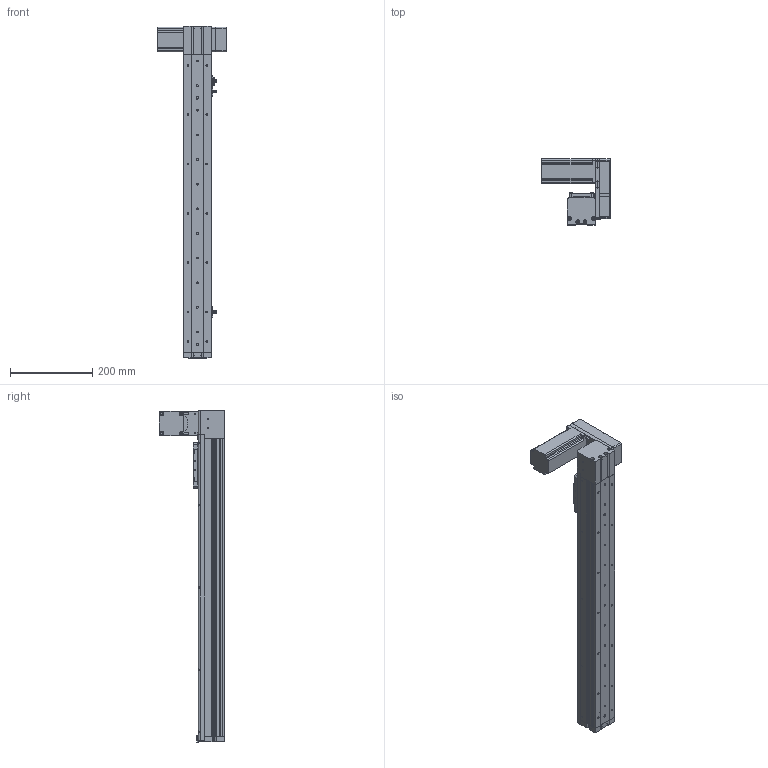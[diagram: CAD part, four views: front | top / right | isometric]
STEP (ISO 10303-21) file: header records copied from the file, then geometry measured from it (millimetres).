
FILE_DESCRIPTION (( 'STEP AP214' ), '1' );
FILE_NAME ('KSD68BS-S550-MLU-CR.STEP', '2019-11-07T07:26:52', ( '微软用户' ), ( '微软中国' ), 'SwSTEP 2.0', 'SolidWorks 2014', '' );
FILE_SCHEMA (( 'AUTOMOTIVE_DESIGN' ));
Length unit declared in the file: millimetre
Products named in the file (14): KSD68BS 550行程盖板全封闭; 68宽单导轨全封闭丝杆传动安装板1防护罩; KSD68BS 550行程侧板全封闭; 68宽单导轨全封闭同步带端板; 68单导轨全封闭同步带电机座左; 68单导轨全封闭同步带安装板; 68遵裔啣揤啣1; 悵誘欶奻狟殏; 68宽马达安装板连板上折同步带; 感应片68宽全封闭; U倰嫖萇EEㄜSX672; 台达ECMA－C20604AS伺服电机（400W); KSD68BS 550行程底板全封闭; KSD68BS-S550-MLU-CR
Assembly tree (17 placements, depth 2):
  KSD68BS-S550-MLU-CR
    KSD68BS 550行程底板全封闭
    台达ECMA－C20604AS伺服电机（400W)
    U倰嫖萇EEㄜSX672  x3
    感应片68宽全封闭
    68宽马达安装板连板上折同步带
    悵誘欶奻狟殏
    68单导轨全封闭同步带安装板
    68单导轨全封闭同步带电机座左
    68宽单导轨全封闭同步带端板
    KSD68BS 550行程侧板全封闭  x2
    68宽单导轨全封闭丝杆传动安装板1防护罩
    68遵裔啣揤啣1  x2
    KSD68BS 550行程盖板全封闭
Bounding box: 167.2 x 159.5 x 808.1 mm (x, y, z)
Volume: 1929841.5 mm3; surface area: 686228.9 mm2
Topology: 18 solids, 18 shells, 1439 faces, 4065 edges, 2608 vertices
Faces by surface type: cylinder 666, plane 625, cone 148
Entity records: 44995 total; most frequent: CARTESIAN_POINT 7665, DIRECTION 6770, ORIENTED_EDGE 6482, EDGE_CURVE 3241, AXIS2_PLACEMENT_3D 2425, VERTEX_POINT 2126, VECTOR 1920, LINE 1920
